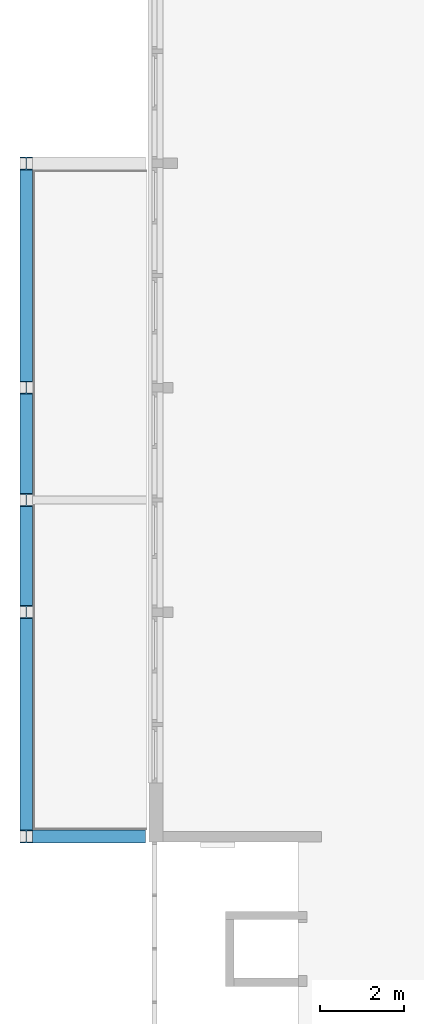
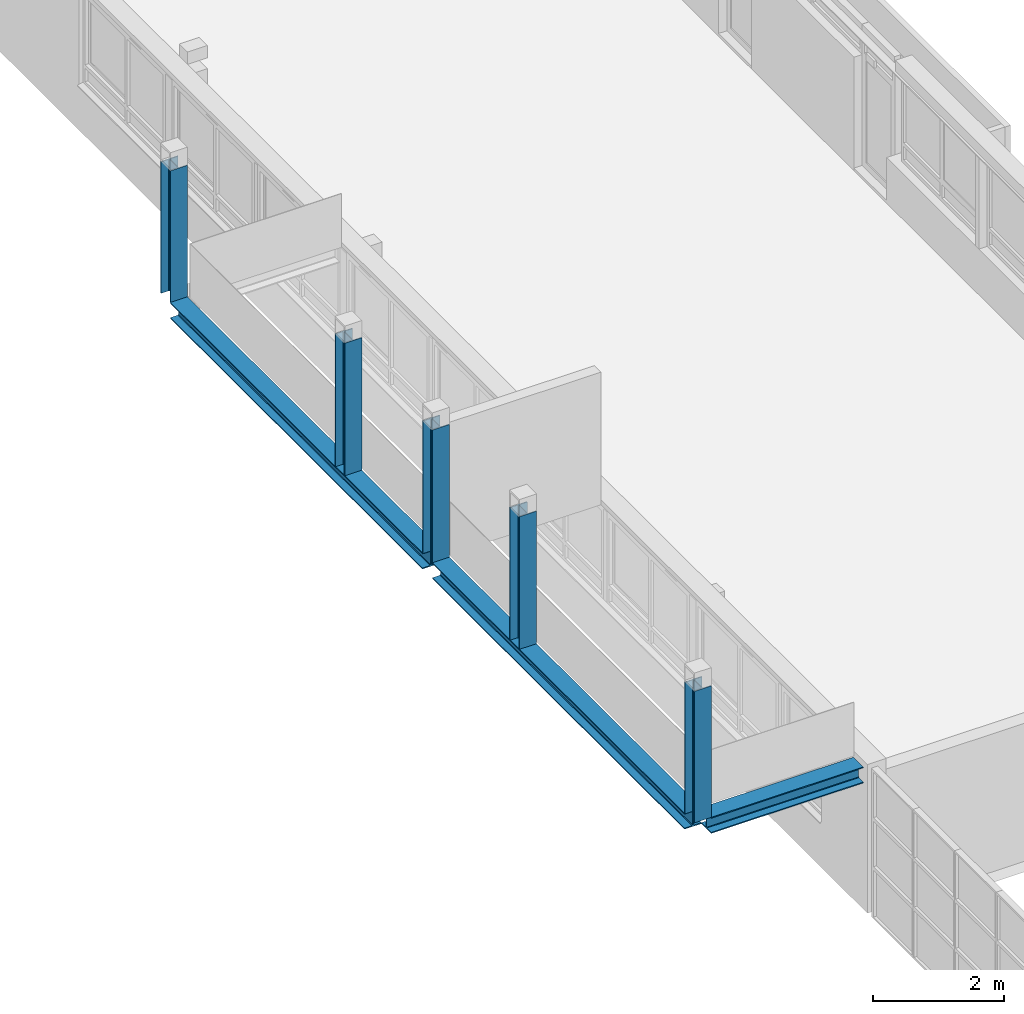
# One storey, part 3 of 14: 5 columns, 3 beams.
"""IFC2X3 building model written with IfcOpenShell, lengths in millimetres."""

from ifc_helpers import new_model, entity, si_unit, converted_unit, derived_unit, money_unit, direction, frame, origin_with_axes, place, context, subcontext, project, spatial, faceted_brep, material, type_object, element, save


model = new_model("IFC2X3")

# Units and contexts
model_context = context("Model", 3, precision=0.01, world=origin_with_axes(), true_north=direction((0.0, 1.0)))
body_context = subcontext(model_context, "Body", "Model", "MODEL_VIEW")
ifc_project = project(units=[si_unit("LENGTHUNIT", "METRE", prefix="MILLI"), si_unit("AREAUNIT", "SQUARE_METRE"), si_unit("VOLUMEUNIT", "CUBIC_METRE"), converted_unit("PLANEANGLEUNIT", "DEGREE", entity("IfcPlaneAngleMeasure", 0.0174532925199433), si_unit("PLANEANGLEUNIT", "RADIAN"), dimensions=[0, 0, 0, 0, 0, 0, 0]), money_unit("EUR"), converted_unit("TIMEUNIT", "Year", entity("IfcTimeMeasure", 31557600.0), si_unit("TIMEUNIT", "SECOND"), dimensions=[0, 0, 1, 0, 0, 0, 0]), si_unit("MASSUNIT", "GRAM", prefix="KILO"), si_unit("THERMODYNAMICTEMPERATUREUNIT", "DEGREE_CELSIUS"), si_unit("LUMINOUSINTENSITYUNIT", "LUMEN"), si_unit("ENERGYUNIT", "JOULE", prefix="MEGA"), derived_unit("THERMALCONDUCTANCEUNIT", [(si_unit("POWERUNIT", "WATT"), 1), (si_unit("LENGTHUNIT", "METRE"), -1), (si_unit("THERMODYNAMICTEMPERATUREUNIT", "KELVIN"), -1)]), derived_unit("SPECIFICHEATCAPACITYUNIT", [(si_unit("ENERGYUNIT", "JOULE"), 1), (si_unit("MASSUNIT", "GRAM", prefix="KILO"), -1), (si_unit("THERMODYNAMICTEMPERATUREUNIT", "KELVIN"), -1)]), derived_unit("MASSDENSITYUNIT", [(si_unit("MASSUNIT", "GRAM", prefix="KILO"), 1), (si_unit("VOLUMEUNIT", "CUBIC_METRE"), -1)])], contexts=[model_context])

# Site, building, storey
site_placement = place(None, origin_with_axes())
site = spatial("IfcSite", under=ifc_project, at=site_placement, Name="Site", CompositionType="ELEMENT")
building_placement = place(site_placement, origin_with_axes())
building = spatial("IfcBuilding", under=site, at=building_placement, Name="Naam gebouw", CompositionType="ELEMENT")
storey_placement = place(building_placement, frame((0.0, 0.0, 11460.0), z_axis=(0.0, 0.0, 1.0), x_axis=(1.0, 0.0, 0.0)))
storey = spatial("IfcBuildingStorey", under=building, at=storey_placement, Name="3e verdieping V", CompositionType="ELEMENT", Elevation=11460.0)

# Columns
ifc_material = material(Name="staal geanodiseerd RAL 7024")
column_type_1 = type_object("IfcColumnType", Name="NLRS_28_SCO_staal - kolom - HEB:HE300B", PredefinedType="COLUMN")
column_1_placement = place(storey_placement, frame((17291.00000005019, 35950.91242634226, 2770.00000000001), z_axis=(0.0, 0.0, 1.0), x_axis=(1.0, 0.0, 0.0)))
element("IfcColumn", 1, at=column_1_placement, inside=storey, type_object=column_type_1, material=ifc_material, Name="NLRS_28_SCO_staal - kolom - HEB:HE300B", ObjectType="COLUMN", context=body_context, shape_type="Brep", body=[
    faceted_brep([(-150.0000000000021, 149.9999999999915, 2469.999999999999), (-150.0000000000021, 149.9999999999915, 0.0), (-149.9999999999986, 130.9999999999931, 0.0), (-149.9999999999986, 130.9999999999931, 2469.999999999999), (149.9999999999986, 149.9999999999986, 2469.999999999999), (149.9999999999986, 149.9999999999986, 0.0), (149.9999999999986, 131.0000000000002, 0.0), (32.49999999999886, 131.0000000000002, 0.0), (18.99999999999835, 127.3826859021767, 0.0), (9.117314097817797, 117.4999999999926, 0.0), (5.49999999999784, 103.9999999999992, 0.0), (5.49999999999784, -103.9999999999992, 0.0), (9.11731409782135, -117.5000000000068, 0.0), (18.99999999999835, -127.3826859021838, 0.0), (32.49999999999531, -131.0000000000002, 0.0), (149.999999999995, -131.0000000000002, 0.0), (149.9999999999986, -149.9999999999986, 0.0), (-150.0000000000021, -150.0000000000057, 0.0), (-150.0000000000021, -131.0000000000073, 0.0), (-32.50000000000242, -131.0000000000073, 0.0), (-19.0000000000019, -127.3826859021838, 0.0), (-9.11731409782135, -117.4999999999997, 0.0), (-5.500000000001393, -104.0000000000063, 0.0), (-5.500000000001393, 103.9999999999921, 0.0), (-9.117314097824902, 117.4999999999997, 0.0), (-19.0000000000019, 127.3826859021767, 0.0), (-32.49999999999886, 130.9999999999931, 0.0), (-32.49999999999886, 130.9999999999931, 2469.999999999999), (-19.0000000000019, 127.3826859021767, 2469.999999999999), (-9.117314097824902, 117.4999999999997, 2469.999999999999), (-5.500000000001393, 103.9999999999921, 2469.999999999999), (-5.500000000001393, -104.0000000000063, 2469.999999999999), (-9.11731409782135, -117.4999999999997, 2469.999999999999), (-19.0000000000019, -127.3826859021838, 2469.999999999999), (-32.50000000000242, -131.0000000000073, 2469.999999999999), (-150.0000000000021, -131.0000000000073, 2469.999999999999), (-150.0000000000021, -150.0000000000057, 2469.999999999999), (149.9999999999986, -149.9999999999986, 2469.999999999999), (149.999999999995, -131.0000000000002, 2469.999999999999), (32.49999999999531, -131.0000000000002, 2469.999999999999), (18.99999999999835, -127.3826859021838, 2469.999999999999), (9.11731409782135, -117.5000000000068, 2469.999999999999), (5.49999999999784, -103.9999999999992, 2469.999999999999), (5.49999999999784, 103.9999999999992, 2469.999999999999), (9.117314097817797, 117.4999999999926, 2469.999999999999), (18.99999999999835, 127.3826859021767, 2469.999999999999), (32.49999999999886, 131.0000000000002, 2469.999999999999), (149.9999999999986, 131.0000000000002, 2469.999999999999)], [[[0, 1, 2, 3]], [[4, 5, 1, 0]], [[2, 1, 5, 6, 7, 8, 9, 10, 11, 12, 13, 14, 15, 16, 17, 18, 19, 20, 21, 22, 23, 24, 25, 26]], [[3, 2, 26, 27]], [[4, 0, 3, 27, 28, 29, 30, 31, 32, 33, 34, 35, 36, 37, 38, 39, 40, 41, 42, 43, 44, 45, 46, 47]], [[47, 6, 5, 4]], [[46, 7, 6, 47]], [[45, 8, 7, 46]], [[44, 9, 8, 45]], [[43, 10, 9, 44]], [[42, 11, 10, 43]], [[41, 12, 11, 42]], [[40, 13, 12, 41]], [[39, 14, 13, 40]], [[38, 15, 14, 39]], [[37, 16, 15, 38]], [[36, 17, 16, 37]], [[35, 18, 17, 36]], [[34, 19, 18, 35]], [[33, 20, 19, 34]], [[32, 21, 20, 33]], [[31, 22, 21, 32]], [[30, 23, 22, 31]], [[29, 24, 23, 30]], [[28, 25, 24, 29]], [[27, 26, 25, 28]]]),
])
column_2_placement = place(storey_placement, frame((17291.00000005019, 38620.91242632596, 2770.00000000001), z_axis=(0.0, 0.0, 1.0), x_axis=(1.0, 0.0, 0.0)))
element("IfcColumn", 2, at=column_2_placement, inside=storey, type_object=column_type_1, material=ifc_material, Name="NLRS_28_SCO_staal - kolom - HEB:HE300B", ObjectType="COLUMN", context=body_context, shape_type="Brep", body=[
    faceted_brep([(-150.0000000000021, 149.9999999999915, 2469.999999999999), (-150.0000000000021, 149.9999999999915, 0.0), (-149.9999999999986, 130.9999999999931, 0.0), (-149.9999999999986, 130.9999999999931, 2469.999999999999), (149.9999999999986, 149.9999999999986, 2469.999999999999), (149.9999999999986, 149.9999999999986, 0.0), (149.9999999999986, 131.0000000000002, 0.0), (32.49999999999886, 131.0000000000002, 0.0), (18.99999999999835, 127.3826859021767, 0.0), (9.11731409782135, 117.4999999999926, 0.0), (5.49999999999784, 103.9999999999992, 0.0), (5.49999999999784, -103.9999999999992, 0.0), (9.11731409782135, -117.5000000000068, 0.0), (18.99999999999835, -127.3826859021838, 0.0), (32.49999999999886, -131.0000000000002, 0.0), (149.9999999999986, -131.0000000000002, 0.0), (149.9999999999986, -149.9999999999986, 0.0), (-150.0000000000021, -150.0000000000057, 0.0), (-149.9999999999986, -131.0000000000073, 0.0), (-32.49999999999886, -131.0000000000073, 0.0), (-19.0000000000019, -127.3826859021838, 0.0), (-9.11731409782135, -117.4999999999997, 0.0), (-5.500000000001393, -104.0000000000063, 0.0), (-5.500000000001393, 103.9999999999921, 0.0), (-9.11731409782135, 117.4999999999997, 0.0), (-19.0000000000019, 127.3826859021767, 0.0), (-32.49999999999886, 130.9999999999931, 0.0), (-32.49999999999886, 130.9999999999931, 2469.999999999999), (-19.0000000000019, 127.3826859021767, 2469.999999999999), (-9.11731409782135, 117.4999999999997, 2469.999999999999), (-5.500000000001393, 103.9999999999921, 2469.999999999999), (-5.500000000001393, -104.0000000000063, 2469.999999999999), (-9.11731409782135, -117.4999999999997, 2469.999999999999), (-19.0000000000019, -127.3826859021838, 2469.999999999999), (-32.49999999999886, -131.0000000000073, 2469.999999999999), (-149.9999999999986, -131.0000000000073, 2469.999999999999), (-150.0000000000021, -150.0000000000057, 2469.999999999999), (149.9999999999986, -149.9999999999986, 2469.999999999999), (149.9999999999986, -131.0000000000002, 2469.999999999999), (32.49999999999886, -131.0000000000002, 2469.999999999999), (18.99999999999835, -127.3826859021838, 2469.999999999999), (9.11731409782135, -117.5000000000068, 2469.999999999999), (5.49999999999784, -103.9999999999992, 2469.999999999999), (5.49999999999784, 103.9999999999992, 2469.999999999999), (9.11731409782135, 117.4999999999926, 2469.999999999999), (18.99999999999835, 127.3826859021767, 2469.999999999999), (32.49999999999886, 131.0000000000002, 2469.999999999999), (149.9999999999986, 131.0000000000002, 2469.999999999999)], [[[0, 1, 2, 3]], [[4, 5, 1, 0]], [[2, 1, 5, 6, 7, 8, 9, 10, 11, 12, 13, 14, 15, 16, 17, 18, 19, 20, 21, 22, 23, 24, 25, 26]], [[3, 2, 26, 27]], [[4, 0, 3, 27, 28, 29, 30, 31, 32, 33, 34, 35, 36, 37, 38, 39, 40, 41, 42, 43, 44, 45, 46, 47]], [[47, 6, 5, 4]], [[46, 7, 6, 47]], [[45, 8, 7, 46]], [[44, 9, 8, 45]], [[43, 10, 9, 44]], [[42, 11, 10, 43]], [[41, 12, 11, 42]], [[40, 13, 12, 41]], [[39, 14, 13, 40]], [[38, 15, 14, 39]], [[37, 16, 15, 38]], [[36, 17, 16, 37]], [[35, 18, 17, 36]], [[34, 19, 18, 35]], [[33, 20, 19, 34]], [[32, 21, 20, 33]], [[31, 22, 21, 32]], [[30, 23, 22, 31]], [[29, 24, 23, 30]], [[28, 25, 24, 29]], [[27, 26, 25, 28]]]),
])
column_3_placement = place(storey_placement, frame((17291.00000005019, 33290.91242630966, 2770.00000000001), z_axis=(0.0, 0.0, 1.0), x_axis=(1.0, 0.0, 0.0)))
element("IfcColumn", 3, at=column_3_placement, inside=storey, type_object=column_type_1, material=ifc_material, Name="NLRS_28_SCO_staal - kolom - HEB:HE300B", ObjectType="COLUMN", context=body_context, shape_type="Brep", body=[
    faceted_brep([(-149.9999999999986, 149.9999999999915, 2469.999999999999), (-149.9999999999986, 149.9999999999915, 0.0), (-149.9999999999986, 130.9999999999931, 0.0), (-149.9999999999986, 130.9999999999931, 2469.999999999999), (150.0000000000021, 149.9999999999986, 2469.999999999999), (150.0000000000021, 149.9999999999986, 0.0), (149.9999999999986, 131.0000000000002, 0.0), (32.49999999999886, 131.0000000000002, 0.0), (19.0000000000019, 127.3826859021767, 0.0), (9.11731409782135, 117.4999999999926, 0.0), (5.500000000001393, 103.9999999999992, 0.0), (5.49999999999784, -103.9999999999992, 0.0), (9.11731409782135, -117.5000000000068, 0.0), (18.99999999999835, -127.3826859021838, 0.0), (32.49999999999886, -131.0000000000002, 0.0), (149.9999999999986, -131.0000000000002, 0.0), (150.0000000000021, -149.9999999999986, 0.0), (-149.9999999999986, -150.0000000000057, 0.0), (-149.9999999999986, -131.0000000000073, 0.0), (-32.49999999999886, -131.0000000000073, 0.0), (-19.0000000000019, -127.3826859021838, 0.0), (-9.11731409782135, -117.4999999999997, 0.0), (-5.500000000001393, -104.0000000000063, 0.0), (-5.49999999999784, 103.9999999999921, 0.0), (-9.11731409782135, 117.4999999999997, 0.0), (-18.99999999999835, 127.3826859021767, 0.0), (-32.49999999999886, 130.9999999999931, 0.0), (-32.49999999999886, 130.9999999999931, 2469.999999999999), (-18.99999999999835, 127.3826859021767, 2469.999999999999), (-9.11731409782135, 117.4999999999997, 2469.999999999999), (-5.49999999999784, 103.9999999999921, 2469.999999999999), (-5.500000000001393, -104.0000000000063, 2469.999999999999), (-9.11731409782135, -117.4999999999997, 2469.999999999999), (-19.0000000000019, -127.3826859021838, 2469.999999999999), (-32.49999999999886, -131.0000000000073, 2469.999999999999), (-149.9999999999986, -131.0000000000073, 2469.999999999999), (-149.9999999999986, -150.0000000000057, 2469.999999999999), (150.0000000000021, -149.9999999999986, 2469.999999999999), (149.9999999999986, -131.0000000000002, 2469.999999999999), (32.49999999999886, -131.0000000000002, 2469.999999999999), (18.99999999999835, -127.3826859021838, 2469.999999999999), (9.11731409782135, -117.5000000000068, 2469.999999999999), (5.49999999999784, -103.9999999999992, 2469.999999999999), (5.500000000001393, 103.9999999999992, 2469.999999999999), (9.11731409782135, 117.4999999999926, 2469.999999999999), (19.0000000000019, 127.3826859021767, 2469.999999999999), (32.49999999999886, 131.0000000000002, 2469.999999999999), (149.9999999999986, 131.0000000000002, 2469.999999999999)], [[[0, 1, 2, 3]], [[4, 5, 1, 0]], [[2, 1, 5, 6, 7, 8, 9, 10, 11, 12, 13, 14, 15, 16, 17, 18, 19, 20, 21, 22, 23, 24, 25, 26]], [[3, 2, 26, 27]], [[4, 0, 3, 27, 28, 29, 30, 31, 32, 33, 34, 35, 36, 37, 38, 39, 40, 41, 42, 43, 44, 45, 46, 47]], [[47, 6, 5, 4]], [[46, 7, 6, 47]], [[45, 8, 7, 46]], [[44, 9, 8, 45]], [[43, 10, 9, 44]], [[42, 11, 10, 43]], [[41, 12, 11, 42]], [[40, 13, 12, 41]], [[39, 14, 13, 40]], [[38, 15, 14, 39]], [[37, 16, 15, 38]], [[36, 17, 16, 37]], [[35, 18, 17, 36]], [[34, 19, 18, 35]], [[33, 20, 19, 34]], [[32, 21, 20, 33]], [[31, 22, 21, 32]], [[30, 23, 22, 31]], [[29, 24, 23, 30]], [[28, 25, 24, 29]], [[27, 26, 25, 28]]]),
])
column_type_2 = type_object("IfcColumnType", Name="NLRS_28_SCO_staal - kolom - HEB:HE300B", PredefinedType="COLUMN")
column_4_placement = place(storey_placement, frame((17292.00000006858, 27955.91242634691, 2770.00000000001), z_axis=(0.0, 0.0, 1.0), x_axis=(1.0, 0.0, 0.0)))
element("IfcColumn", 4, at=column_4_placement, inside=storey, type_object=column_type_2, material=ifc_material, Name="NLRS_28_SCO_staal - kolom - HEB:HE300B", ObjectType="COLUMN", context=body_context, shape_type="Brep", body=[
    faceted_brep([(-149.9999999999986, 150.0000000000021, 2449.999999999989), (-149.9999999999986, 150.0000000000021, 0.0), (-149.9999999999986, 131.0000000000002, 0.0), (-149.9999999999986, 131.0000000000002, 2449.999999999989), (150.0000000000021, 150.0000000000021, 2449.999999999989), (150.0000000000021, 150.0000000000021, 0.0), (149.9999999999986, 131.0000000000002, 0.0), (32.49999999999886, 131.0000000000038, 0.0), (19.0000000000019, 127.3826859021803, 0.0), (9.11731409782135, 117.5000000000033, 0.0), (5.500000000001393, 103.9999999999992, 0.0), (5.49999999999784, -103.9999999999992, 0.0), (9.11731409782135, -117.4999999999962, 0.0), (19.0000000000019, -127.3826859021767, 0.0), (32.49999999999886, -130.9999999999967, 0.0), (149.9999999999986, -130.9999999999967, 0.0), (150.0000000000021, -149.9999999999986, 0.0), (-149.9999999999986, -149.9999999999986, 0.0), (-149.9999999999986, -130.9999999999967, 0.0), (-32.49999999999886, -130.9999999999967, 0.0), (-18.99999999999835, -127.3826859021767, 0.0), (-9.11731409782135, -117.4999999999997, 0.0), (-5.500000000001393, -103.9999999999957, 0.0), (-5.49999999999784, 104.0000000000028, 0.0), (-9.11731409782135, 117.4999999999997, 0.0), (-18.99999999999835, 127.3826859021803, 0.0), (-32.49999999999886, 131.0000000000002, 0.0), (-32.49999999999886, 131.0000000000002, 2449.999999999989), (-18.99999999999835, 127.3826859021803, 2449.999999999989), (-9.11731409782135, 117.4999999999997, 2449.999999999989), (-5.49999999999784, 104.0000000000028, 2449.999999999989), (-5.500000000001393, -103.9999999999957, 2449.999999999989), (-9.11731409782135, -117.4999999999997, 2449.999999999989), (-18.99999999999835, -127.3826859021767, 2449.999999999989), (-32.49999999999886, -130.9999999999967, 2449.999999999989), (-149.9999999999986, -130.9999999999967, 2449.999999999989), (-149.9999999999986, -149.9999999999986, 2449.999999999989), (150.0000000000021, -149.9999999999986, 2449.999999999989), (149.9999999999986, -130.9999999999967, 2449.999999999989), (32.49999999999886, -130.9999999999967, 2449.999999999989), (19.0000000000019, -127.3826859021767, 2449.999999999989), (9.11731409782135, -117.4999999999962, 2449.999999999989), (5.49999999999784, -103.9999999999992, 2449.999999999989), (5.500000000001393, 103.9999999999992, 2449.999999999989), (9.11731409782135, 117.5000000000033, 2449.999999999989), (19.0000000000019, 127.3826859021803, 2449.999999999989), (32.49999999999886, 131.0000000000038, 2449.999999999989), (149.9999999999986, 131.0000000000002, 2449.999999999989)], [[[0, 1, 2, 3]], [[4, 5, 1, 0]], [[2, 1, 5, 6, 7, 8, 9, 10, 11, 12, 13, 14, 15, 16, 17, 18, 19, 20, 21, 22, 23, 24, 25, 26]], [[3, 2, 26, 27]], [[4, 0, 3, 27, 28, 29, 30, 31, 32, 33, 34, 35, 36, 37, 38, 39, 40, 41, 42, 43, 44, 45, 46, 47]], [[47, 6, 5, 4]], [[46, 7, 6, 47]], [[45, 8, 7, 46]], [[44, 9, 8, 45]], [[43, 10, 9, 44]], [[42, 11, 10, 43]], [[41, 12, 11, 42]], [[40, 13, 12, 41]], [[39, 14, 13, 40]], [[38, 15, 14, 39]], [[37, 16, 15, 38]], [[36, 17, 16, 37]], [[35, 18, 17, 36]], [[34, 19, 18, 35]], [[33, 20, 19, 34]], [[32, 21, 20, 33]], [[31, 22, 21, 32]], [[30, 23, 22, 31]], [[29, 24, 23, 30]], [[28, 25, 24, 29]], [[27, 26, 25, 28]]]),
])
column_type_3 = type_object("IfcColumnType", Name="NLRS_28_SCO_staal - kolom - HEB:HE300B", PredefinedType="COLUMN")
column_5_placement = place(storey_placement, frame((17292.00000003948, 43945.91242627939, 2770.00000000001), z_axis=(0.0, 0.0, 1.0), x_axis=(0.0, -1.0, 0.0)))
element("IfcColumn", 5, at=column_5_placement, inside=storey, type_object=column_type_3, material=ifc_material, Name="NLRS_28_SCO_staal - kolom - HEB:HE300B", ObjectType="COLUMN", context=body_context, shape_type="Brep", body=[
    faceted_brep([(-149.9999999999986, -150.0000000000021, 2449.999999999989), (-149.9999999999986, -150.0000000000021, 0.0), (-131.0000000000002, -149.9999999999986, 0.0), (-131.0000000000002, -149.9999999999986, 2449.999999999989), (-149.9999999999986, 149.9999999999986, 2449.999999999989), (-149.9999999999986, 149.9999999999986, 0.0), (-131.0000000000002, 149.9999999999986, 0.0), (-131.0000000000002, 32.49999999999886, 0.0), (-127.3826859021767, 18.99999999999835, 0.0), (-117.4999999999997, 9.11731409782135, 0.0), (-103.9999999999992, 5.49999999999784, 0.0), (103.9999999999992, 5.49999999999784, 0.0), (117.4999999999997, 9.11731409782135, 0.0), (127.3826859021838, 18.99999999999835, 0.0), (131.0000000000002, 32.49999999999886, 0.0), (131.0000000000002, 149.9999999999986, 0.0), (149.9999999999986, 149.9999999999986, 0.0), (149.9999999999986, -150.0000000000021, 0.0), (131.0000000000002, -149.9999999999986, 0.0), (131.0000000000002, -32.49999999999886, 0.0), (127.3826859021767, -19.0000000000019, 0.0), (117.4999999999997, -9.11731409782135, 0.0), (103.9999999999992, -5.500000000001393, 0.0), (-103.9999999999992, -5.500000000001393, 0.0), (-117.4999999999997, -9.11731409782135, 0.0), (-127.3826859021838, -19.0000000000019, 0.0), (-131.0000000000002, -32.49999999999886, 0.0), (-131.0000000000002, -32.49999999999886, 2449.999999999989), (-127.3826859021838, -19.0000000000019, 2449.999999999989), (-117.4999999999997, -9.11731409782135, 2449.999999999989), (-103.9999999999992, -5.500000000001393, 2449.999999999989), (103.9999999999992, -5.500000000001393, 2449.999999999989), (117.4999999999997, -9.11731409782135, 2449.999999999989), (127.3826859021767, -19.0000000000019, 2449.999999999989), (131.0000000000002, -32.49999999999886, 2449.999999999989), (131.0000000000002, -149.9999999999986, 2449.999999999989), (149.9999999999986, -150.0000000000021, 2449.999999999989), (149.9999999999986, 149.9999999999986, 2449.999999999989), (131.0000000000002, 149.9999999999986, 2449.999999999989), (131.0000000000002, 32.49999999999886, 2449.999999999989), (127.3826859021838, 18.99999999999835, 2449.999999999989), (117.4999999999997, 9.11731409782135, 2449.999999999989), (103.9999999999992, 5.49999999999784, 2449.999999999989), (-103.9999999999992, 5.49999999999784, 2449.999999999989), (-117.4999999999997, 9.11731409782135, 2449.999999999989), (-127.3826859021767, 18.99999999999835, 2449.999999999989), (-131.0000000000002, 32.49999999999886, 2449.999999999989), (-131.0000000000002, 149.9999999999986, 2449.999999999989)], [[[0, 1, 2, 3]], [[4, 5, 1, 0]], [[2, 1, 5, 6, 7, 8, 9, 10, 11, 12, 13, 14, 15, 16, 17, 18, 19, 20, 21, 22, 23, 24, 25, 26]], [[3, 2, 26, 27]], [[4, 0, 3, 27, 28, 29, 30, 31, 32, 33, 34, 35, 36, 37, 38, 39, 40, 41, 42, 43, 44, 45, 46, 47]], [[47, 6, 5, 4]], [[46, 7, 6, 47]], [[45, 8, 7, 46]], [[44, 9, 8, 45]], [[43, 10, 9, 44]], [[42, 11, 10, 43]], [[41, 12, 11, 42]], [[40, 13, 12, 41]], [[39, 14, 13, 40]], [[38, 15, 14, 39]], [[37, 16, 15, 38]], [[36, 17, 16, 37]], [[35, 18, 17, 36]], [[34, 19, 18, 35]], [[33, 20, 19, 34]], [[32, 21, 20, 33]], [[31, 22, 21, 32]], [[30, 23, 22, 31]], [[29, 24, 23, 30]], [[28, 25, 24, 29]], [[27, 26, 25, 28]]]),
])

# Beams
beam_type = type_object("IfcBeamType", Name="NLRS_28_SF_LIB_balk HE_generiek_ISR:balk HE_gen_HEB300", PredefinedType="BEAM")
beam_1_placement = place(storey_placement, frame((17292.00000003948, 35800.91242631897, 2620.000000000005), z_axis=(0.0, 0.0, 1.0), x_axis=(-1.0, 0.0, 0.0)))
element("IfcBeam", 6, at=beam_1_placement, inside=storey, type_object=beam_type, material=ifc_material, Name="NLRS_28_SF_LIB_balk HE_generiek_ISR:balk HE_gen_HEB300", ObjectType="BEAM", context=body_context, shape_type="Brep", body=[
    faceted_brep([(-150.0000000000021, 0.0, 150.0000000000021), (-150.0000000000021, 7695.000000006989, 150.0000000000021), (-150.0000000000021, 7695.000000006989, 131.000000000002), (-150.0000000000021, 0.0, 131.000000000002), (149.9999999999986, 0.0, 150.0000000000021), (149.9999999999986, 7695.000000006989, 150.0000000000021), (149.9999999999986, 7695.000000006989, 131.000000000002), (32.50000000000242, 7695.000000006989, 131.000000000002), (18.99999999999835, 7695.000000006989, 127.382685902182), (9.117314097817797, 7695.000000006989, 117.5000000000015), (5.49999999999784, 7695.000000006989, 104.000000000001), (5.49999999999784, 7695.000000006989, -103.9999999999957), (9.117314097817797, 7695.000000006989, -117.4999999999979), (18.99999999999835, 7695.000000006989, -127.3826859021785), (32.50000000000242, 7695.000000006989, -130.9999999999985), (149.9999999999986, 7695.000000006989, -130.9999999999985), (149.9999999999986, 7695.000000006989, -149.9999999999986), (-150.0000000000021, 7695.000000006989, -149.9999999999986), (-150.0000000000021, 7695.000000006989, -130.9999999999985), (-32.50000000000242, 7695.000000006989, -130.9999999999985), (-19.0000000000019, 7695.000000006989, -127.3826859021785), (-9.11731409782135, 7695.000000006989, -117.4999999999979), (-5.500000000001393, 7695.000000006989, -103.9999999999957), (-5.500000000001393, 7695.000000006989, 104.000000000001), (-9.11731409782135, 7695.000000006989, 117.5000000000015), (-19.0000000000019, 7695.000000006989, 127.382685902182), (-32.50000000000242, 7695.000000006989, 131.000000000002), (-32.50000000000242, 0.0, 131.000000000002), (-19.0000000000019, 0.0, 127.382685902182), (-9.11731409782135, 0.0, 117.5000000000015), (-5.500000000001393, 0.0, 104.000000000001), (-5.500000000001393, 0.0, -103.9999999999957), (-9.11731409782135, 0.0, -117.4999999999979), (-19.0000000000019, 0.0, -127.3826859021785), (-32.50000000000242, 0.0, -130.9999999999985), (-150.0000000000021, 0.0, -130.9999999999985), (-150.0000000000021, 0.0, -149.9999999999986), (149.9999999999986, 0.0, -149.9999999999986), (149.9999999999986, 0.0, -130.9999999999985), (32.50000000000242, 0.0, -130.9999999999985), (19.0000000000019, 0.0, -127.3826859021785), (9.11731409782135, 0.0, -117.4999999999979), (5.49999999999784, 0.0, -103.9999999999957), (5.49999999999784, 0.0, 104.000000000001), (9.11731409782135, 0.0, 117.5000000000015), (19.0000000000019, 0.0, 127.382685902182), (32.50000000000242, 0.0, 131.000000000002), (149.9999999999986, 0.0, 131.000000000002)], [[[0, 1, 2, 3]], [[4, 5, 1, 0]], [[2, 1, 5, 6, 7, 8, 9, 10, 11, 12, 13, 14, 15, 16, 17, 18, 19, 20, 21, 22, 23, 24, 25, 26]], [[3, 2, 26, 27]], [[4, 0, 3, 27, 28, 29, 30, 31, 32, 33, 34, 35, 36, 37, 38, 39, 40, 41, 42, 43, 44, 45, 46, 47]], [[47, 6, 5, 4]], [[46, 7, 6, 47]], [[45, 8, 7, 46]], [[44, 9, 8, 45]], [[43, 10, 9, 44]], [[42, 11, 10, 43]], [[41, 12, 11, 42]], [[40, 13, 12, 41]], [[39, 14, 13, 40]], [[38, 15, 14, 39]], [[37, 16, 15, 38]], [[36, 17, 16, 37]], [[35, 18, 17, 36]], [[34, 19, 18, 35]], [[33, 20, 19, 34]], [[32, 21, 20, 33]], [[31, 22, 21, 32]], [[30, 23, 22, 31]], [[29, 24, 23, 30]], [[28, 25, 24, 29]], [[27, 26, 25, 28]]]),
])
beam_2_placement = place(storey_placement, frame((17292.00000003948, 36100.91242636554, 2620.000000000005), z_axis=(0.0, 0.0, 1.0), x_axis=(1.0, 0.0, 0.0)))
element("IfcBeam", 7, at=beam_2_placement, inside=storey, type_object=beam_type, material=ifc_material, Name="NLRS_28_SF_LIB_balk HE_generiek_ISR:balk HE_gen_HEB300", ObjectType="BEAM", context=body_context, shape_type="Brep", body=[
    faceted_brep([(-150.0000000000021, 0.0, 150.0000000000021), (-150.0000000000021, 7694.999999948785, 150.0000000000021), (-150.0000000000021, 7694.999999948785, 131.000000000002), (-150.0000000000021, 0.0, 131.000000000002), (149.9999999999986, 0.0, 150.0000000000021), (149.9999999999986, 7694.999999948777, 150.0000000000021), (149.9999999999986, 7694.999999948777, 131.000000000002), (32.50000000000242, 7694.999999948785, 131.000000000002), (18.99999999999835, 7694.999999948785, 127.382685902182), (9.117314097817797, 7694.999999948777, 117.5000000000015), (5.49999999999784, 7694.999999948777, 104.000000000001), (5.49999999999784, 7694.999999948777, -103.9999999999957), (9.117314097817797, 7694.999999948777, -117.4999999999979), (18.99999999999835, 7694.999999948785, -127.3826859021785), (32.50000000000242, 7694.999999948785, -130.9999999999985), (149.9999999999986, 7694.999999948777, -130.9999999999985), (149.9999999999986, 7694.999999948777, -149.9999999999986), (-150.0000000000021, 7694.999999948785, -149.9999999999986), (-150.0000000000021, 7694.999999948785, -130.9999999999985), (-32.50000000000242, 7694.999999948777, -130.9999999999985), (-19.0000000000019, 7694.999999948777, -127.3826859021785), (-9.11731409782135, 7694.999999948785, -117.4999999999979), (-5.500000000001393, 7694.999999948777, -103.9999999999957), (-5.500000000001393, 7694.999999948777, 104.000000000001), (-9.11731409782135, 7694.999999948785, 117.5000000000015), (-19.0000000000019, 7694.999999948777, 127.382685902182), (-32.50000000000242, 7694.999999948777, 131.000000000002), (-32.50000000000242, 0.0, 131.000000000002), (-19.0000000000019, 0.0, 127.382685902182), (-9.11731409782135, 0.0, 117.5000000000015), (-5.500000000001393, 0.0, 104.000000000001), (-5.500000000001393, 0.0, -103.9999999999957), (-9.11731409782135, 0.0, -117.4999999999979), (-19.0000000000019, 0.0, -127.3826859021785), (-32.50000000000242, 0.0, -130.9999999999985), (-150.0000000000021, 0.0, -130.9999999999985), (-150.0000000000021, 0.0, -149.9999999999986), (149.9999999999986, 0.0, -149.9999999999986), (149.9999999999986, 0.0, -130.9999999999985), (32.50000000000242, 0.0, -130.9999999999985), (19.0000000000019, 0.0, -127.3826859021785), (9.11731409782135, 0.0, -117.4999999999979), (5.49999999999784, 0.0, -103.9999999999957), (5.49999999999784, 0.0, 104.000000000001), (9.11731409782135, 0.0, 117.5000000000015), (19.0000000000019, 0.0, 127.382685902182), (32.50000000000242, 0.0, 131.000000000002), (149.9999999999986, 0.0, 131.000000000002)], [[[0, 1, 2, 3]], [[4, 5, 1, 0]], [[2, 1, 5, 6, 7, 8, 9, 10, 11, 12, 13, 14, 15, 16, 17, 18, 19, 20, 21, 22, 23, 24, 25, 26]], [[3, 2, 26, 27]], [[4, 0, 3, 27, 28, 29, 30, 31, 32, 33, 34, 35, 36, 37, 38, 39, 40, 41, 42, 43, 44, 45, 46, 47]], [[47, 6, 5, 4]], [[46, 7, 6, 47]], [[45, 8, 7, 46]], [[44, 9, 8, 45]], [[43, 10, 9, 44]], [[42, 11, 10, 43]], [[41, 12, 11, 42]], [[40, 13, 12, 41]], [[39, 14, 13, 40]], [[38, 15, 14, 39]], [[37, 16, 15, 38]], [[36, 17, 16, 37]], [[35, 18, 17, 36]], [[34, 19, 18, 35]], [[33, 20, 19, 34]], [[32, 21, 20, 33]], [[31, 22, 21, 32]], [[30, 23, 22, 31]], [[29, 24, 23, 30]], [[28, 25, 24, 29]], [[27, 26, 25, 28]]]),
])
beam_3_placement = place(storey_placement, frame((20122.00000005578, 27955.91242634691, 2620.000000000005), z_axis=(0.0, 0.0, 1.0), x_axis=(0.0, 1.0, 0.0)))
element("IfcBeam", 8, at=beam_3_placement, inside=storey, type_object=beam_type, material=ifc_material, Name="NLRS_28_SF_LIB_balk HE_generiek_ISR:balk HE_gen_HEB300", ObjectType="BEAM", context=body_context, shape_type="Brep", body=[
    faceted_brep([(-150.0000000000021, 0.0, 150.0000000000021), (-150.0000000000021, 2679.999999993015, 150.0000000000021), (-150.0000000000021, 2679.999999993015, 131.000000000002), (-150.0000000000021, 0.0, 131.000000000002), (149.9999999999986, 0.0, 150.0000000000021), (149.9999999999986, 2679.999999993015, 150.0000000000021), (149.9999999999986, 2679.999999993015, 131.000000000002), (32.50000000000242, 2679.999999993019, 131.000000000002), (19.0000000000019, 2679.999999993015, 127.382685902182), (9.11731409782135, 2679.999999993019, 117.5000000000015), (5.49999999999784, 2679.999999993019, 104.000000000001), (5.49999999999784, 2679.999999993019, -103.9999999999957), (9.11731409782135, 2679.999999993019, -117.4999999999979), (19.0000000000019, 2679.999999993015, -127.3826859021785), (32.50000000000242, 2679.999999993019, -130.9999999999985), (149.9999999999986, 2679.999999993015, -130.9999999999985), (149.9999999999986, 2679.999999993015, -149.9999999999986), (-150.0000000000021, 2679.999999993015, -149.9999999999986), (-150.0000000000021, 2679.999999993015, -130.9999999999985), (-32.50000000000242, 2679.999999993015, -130.9999999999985), (-19.0000000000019, 2679.999999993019, -127.3826859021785), (-9.11731409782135, 2679.999999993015, -117.4999999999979), (-5.500000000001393, 2679.999999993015, -103.9999999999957), (-5.500000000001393, 2679.999999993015, 104.000000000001), (-9.11731409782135, 2679.999999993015, 117.5000000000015), (-19.0000000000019, 2679.999999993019, 127.382685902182), (-32.50000000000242, 2679.999999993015, 131.000000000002), (-32.50000000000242, 0.0, 131.000000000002), (-19.0000000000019, 0.0, 127.382685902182), (-9.11731409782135, 0.0, 117.5000000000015), (-5.500000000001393, 0.0, 104.000000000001), (-5.500000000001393, 0.0, -103.9999999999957), (-9.11731409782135, 0.0, -117.4999999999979), (-19.0000000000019, 0.0, -127.3826859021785), (-32.50000000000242, 0.0, -130.9999999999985), (-150.0000000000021, 0.0, -130.9999999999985), (-150.0000000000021, 0.0, -149.9999999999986), (149.9999999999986, 0.0, -149.9999999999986), (149.9999999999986, 0.0, -130.9999999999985), (32.50000000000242, 0.0, -130.9999999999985), (19.0000000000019, 0.0, -127.3826859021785), (9.11731409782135, 0.0, -117.4999999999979), (5.49999999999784, 0.0, -103.9999999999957), (5.49999999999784, 0.0, 104.000000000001), (9.11731409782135, 0.0, 117.5000000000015), (19.0000000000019, 0.0, 127.382685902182), (32.50000000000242, 0.0, 131.000000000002), (149.9999999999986, 0.0, 131.000000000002)], [[[0, 1, 2, 3]], [[4, 5, 1, 0]], [[2, 1, 5, 6, 7, 8, 9, 10, 11, 12, 13, 14, 15, 16, 17, 18, 19, 20, 21, 22, 23, 24, 25, 26]], [[3, 2, 26, 27]], [[4, 0, 3, 27, 28, 29, 30, 31, 32, 33, 34, 35, 36, 37, 38, 39, 40, 41, 42, 43, 44, 45, 46, 47]], [[47, 6, 5, 4]], [[46, 7, 6, 47]], [[45, 8, 7, 46]], [[44, 9, 8, 45]], [[43, 10, 9, 44]], [[42, 11, 10, 43]], [[41, 12, 11, 42]], [[40, 13, 12, 41]], [[39, 14, 13, 40]], [[38, 15, 14, 39]], [[37, 16, 15, 38]], [[36, 17, 16, 37]], [[35, 18, 17, 36]], [[34, 19, 18, 35]], [[33, 20, 19, 34]], [[32, 21, 20, 33]], [[31, 22, 21, 32]], [[30, 23, 22, 31]], [[29, 24, 23, 30]], [[28, 25, 24, 29]], [[27, 26, 25, 28]]]),
])

save(model, "model.ifc")
